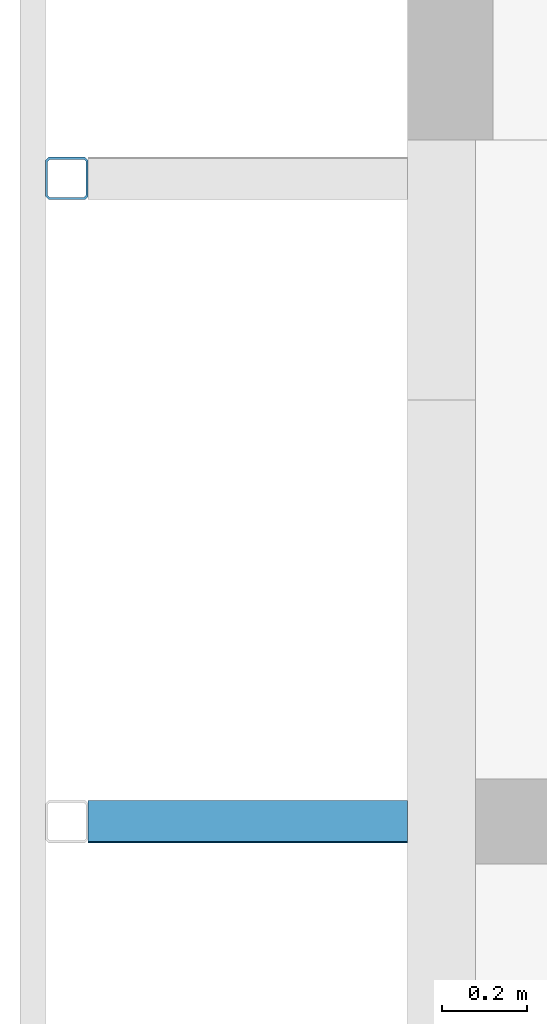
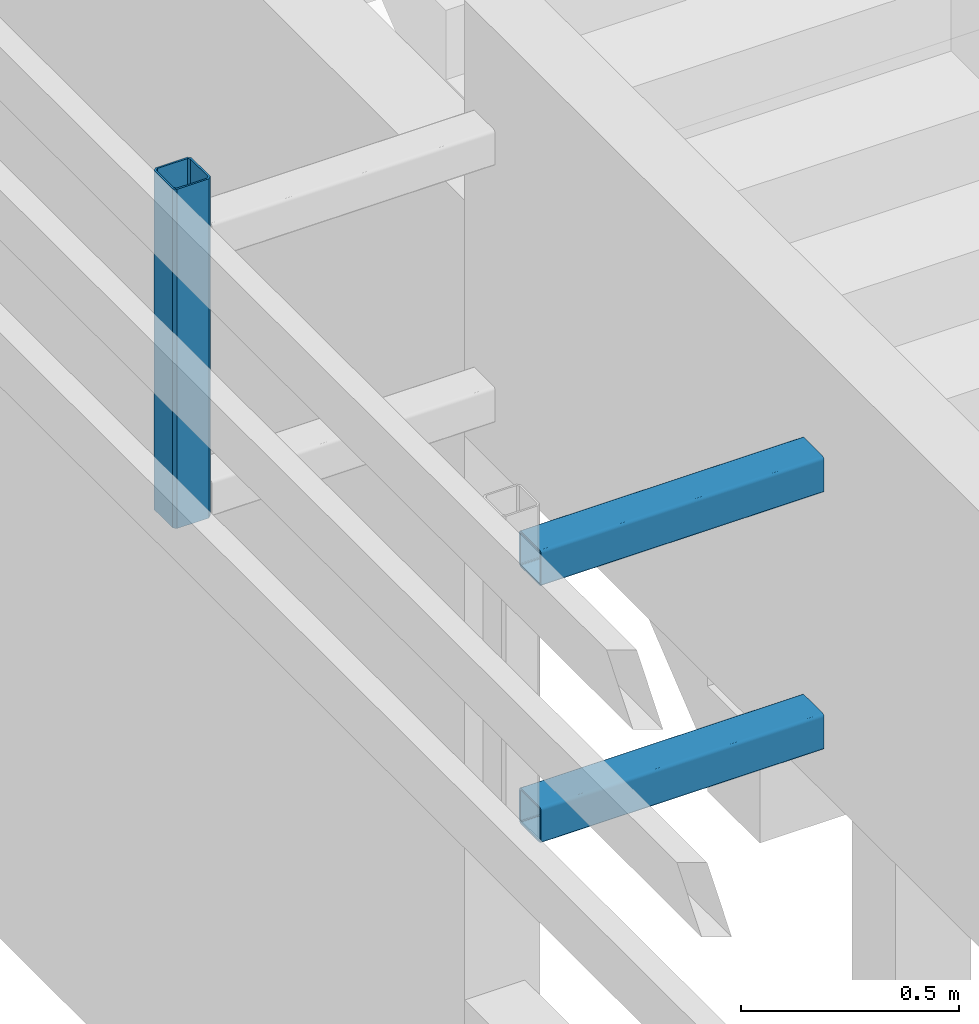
# One storey, part 9 of 44: 3 members.
"""IFC4 building model written with IfcOpenShell, lengths in metres."""

from ifc_helpers import new_model, entity, si_unit, converted_unit, derived_unit, frame, origin, place, context, subcontext, project, spatial, faceted_brep, material, element, save


model = new_model("IFC4")

# Units and contexts
model_context = context("Model", 3, precision=1e-05, world=origin())
plan_context = context("Plan", 2, precision=1e-05, world=origin())
body_context = subcontext(model_context, "Body", "Model", "MODEL_VIEW")
ifc_project = project(units=[si_unit("LENGTHUNIT", "METRE"), si_unit("AREAUNIT", "SQUARE_METRE"), si_unit("VOLUMEUNIT", "CUBIC_METRE"), si_unit("MASSUNIT", "GRAM", prefix="KILO"), converted_unit("PLANEANGLEUNIT", "DEGREE", entity("IfcPlaneAngleMeasure", 0.0174532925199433), si_unit("PLANEANGLEUNIT", "RADIAN"), dimensions=[0, 0, 0, 0, 0, 0, 0]), derived_unit("THERMALTRANSMITTANCEUNIT", [(si_unit("POWERUNIT", "WATT"), 1), (si_unit("THERMODYNAMICTEMPERATUREUNIT", "KELVIN"), -1), (si_unit("LENGTHUNIT", "METRE"), -2)]), derived_unit("VOLUMETRICFLOWRATEUNIT", [(si_unit("LENGTHUNIT", "METRE"), 3), (converted_unit("TIMEUNIT", "hour", entity("IfcTimeMeasure", 3600.0), si_unit("TIMEUNIT", "SECOND"), dimensions=[0, 0, 1, 0, 0, 0, 0]), -1), (si_unit("LENGTHUNIT", "METRE"), -1)])], contexts=[model_context, plan_context])

# Site, building, storey
site_placement = place(None, origin())
site = spatial("IfcSite", under=ifc_project, at=site_placement, Name="Site", CompositionType="ELEMENT")
building_placement = place(site_placement, origin())
building = spatial("IfcBuilding", under=site, at=building_placement, Name="Admin", CompositionType="ELEMENT")
storey_placement = place(building_placement, frame((0.0, 0.0, 3.25)))
storey = spatial("IfcBuildingStorey", under=building, at=storey_placement, Name="01-Etage1", CompositionType="ELEMENT", Elevation=3.25)

# Members
ifc_material_1 = material(Name="S235")
member_1_placement = place(storey_placement, frame((23.149800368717, 17.0594493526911, 2.82)))
element("IfcMember", 1, at=member_1_placement, inside=storey, material=ifc_material_1, Name="Bandeau R+1", context=body_context, shape_type="Brep", body=[
    faceted_brep([(0.0950000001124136, 0.0900000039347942, 0.0), (0.0950000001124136, 0.0900000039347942, 0.95), (0.095000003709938, 0.0100000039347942, 0.95), (0.095000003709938, 0.0100000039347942, 0.0), (0.0899999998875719, 0.0950000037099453, 0.0), (0.0899999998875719, 0.0950000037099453, 0.95), (0.0099999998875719, 0.0950000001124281, 0.0), (0.0099999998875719, 0.0950000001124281, 0.95), (0.00500000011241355, 0.0899999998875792, 0.0), (0.00500000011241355, 0.0899999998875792, 0.95), (0.00500000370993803, 0.00999999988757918, 0.0), (0.00500000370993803, 0.00999999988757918, 0.95), (0.0100000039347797, 0.0050000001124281, 0.0), (0.0100000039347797, 0.0050000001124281, 0.95), (0.0900000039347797, 0.0050000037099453, 0.0), (0.0900000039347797, 0.0050000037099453, 0.95), (0.0925000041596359, 3.82237340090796e-09, 0.0), (0.0925000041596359, 3.82237340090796e-09, 0.95), (0.100000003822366, 0.00750000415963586, 0.95), (0.100000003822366, 0.00750000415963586, 0.0), (0.00750000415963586, 0.0, 0.0), (0.00750000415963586, 0.0, 0.95), (3.82236612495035e-09, 0.00749999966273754, 0.0), (3.82236612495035e-09, 0.00749999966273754, 0.95), (0.0, 0.0924999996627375, 0.0), (0.0, 0.0924999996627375, 0.95), (0.00749999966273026, 0.1, 0.0), (0.00749999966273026, 0.1, 0.95), (0.0924999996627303, 0.100000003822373, 0.0), (0.0924999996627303, 0.100000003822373, 0.95), (0.1, 0.0925000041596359, 0.0), (0.1, 0.0925000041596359, 0.95)], [[[0, 1, 2, 3]], [[4, 5, 1, 0]], [[6, 7, 5, 4]], [[8, 9, 7, 6]], [[10, 11, 9, 8]], [[12, 13, 11, 10]], [[14, 15, 13, 12]], [[3, 2, 15, 14]], [[16, 17, 18, 19]], [[20, 21, 17, 16]], [[22, 23, 21, 20]], [[24, 25, 23, 22]], [[26, 27, 25, 24]], [[28, 29, 27, 26]], [[30, 31, 29, 28]], [[19, 18, 31, 30]], [[18, 17, 21, 23, 25, 27, 29, 31], [2, 1, 5, 7, 9, 11, 13, 15]], [[19, 30, 28, 26, 24, 22, 20, 16], [3, 14, 12, 10, 8, 6, 4, 0]]], orient=[[False], [False], [False], [False], [False], [False], [False], [False], [False], [False], [False], [False], [False], [False], [False], [False], [False, False], [False, False]]),
])
ifc_material_2 = material(Name="S235")
member_2_placement = place(storey_placement, frame((23.2498003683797, 15.5494493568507, 3.54)))
element("IfcMember", 2, at=member_2_placement, inside=storey, material=ifc_material_2, Name="Bandeau R+1", context=body_context, shape_type="Brep", body=[
    faceted_brep([(4.27206032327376e-09, 0.005, 0.09), (4.27206032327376e-09, 0.005, 0.01), (0.750000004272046, 0.00500003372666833, 0.01), (0.750000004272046, 0.00500003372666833, 0.09), (4.2686442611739e-09, 0.00507596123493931, 0.0908682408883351), (0.75000000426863, 0.00507599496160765, 0.0908682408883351), (4.25850157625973e-09, 0.00530153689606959, 0.0917101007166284), (0.750000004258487, 0.00530157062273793, 0.0917101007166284), (4.24193785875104e-09, 0.00566987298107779, 0.0925), (0.750000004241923, 0.00566990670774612, 0.0925), (4.21945878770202e-09, 0.0061697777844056, 0.0932139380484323), (0.750000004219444, 0.00616981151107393, 0.0932139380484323), (4.1917446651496e-09, 0.00678606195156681, 0.0938302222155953), (0.75000000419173, 0.00678609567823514, 0.0938302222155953), (4.15963950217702e-09, 0.0075, 0.0943301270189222), (0.750000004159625, 0.00750003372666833, 0.0943301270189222), (4.12411827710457e-09, 0.00828989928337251, 0.0946984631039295), (0.750000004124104, 0.00828993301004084, 0.0946984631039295), (4.08626146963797e-09, 0.00913175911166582, 0.0949240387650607), (0.750000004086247, 0.00913179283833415, 0.0949240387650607), (4.04721504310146e-09, 0.01, 0.095), (0.7500000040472, 0.0100000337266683, 0.095), (4.49705112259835e-10, 0.09, 0.095), (0.750000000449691, 0.0900000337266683, 0.095), (4.10662323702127e-10, 0.0908682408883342, 0.0949240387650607), (0.750000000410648, 0.0908682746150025, 0.0949240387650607), (3.7280551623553e-10, 0.0917101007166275, 0.0946984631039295), (0.750000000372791, 0.0917101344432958, 0.0946984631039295), (3.37284291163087e-10, 0.0925, 0.0943301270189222), (0.75000000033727, 0.0925000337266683, 0.0943301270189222), (3.05179128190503e-10, 0.0932139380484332, 0.0938302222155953), (0.750000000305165, 0.0932139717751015, 0.0938302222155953), (2.77465005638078e-10, 0.0938302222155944, 0.0932139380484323), (0.750000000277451, 0.0938302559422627, 0.0932139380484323), (2.54985934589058e-10, 0.0943301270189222, 0.0925), (0.750000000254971, 0.0943301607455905, 0.0925), (2.3842221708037e-10, 0.0946984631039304, 0.0917101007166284), (0.750000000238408, 0.0946984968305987, 0.0917101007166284), (2.28275894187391e-10, 0.0949240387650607, 0.0908682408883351), (0.750000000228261, 0.094924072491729, 0.0908682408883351), (2.24859832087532e-10, 0.095, 0.09), (0.750000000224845, 0.0950000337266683, 0.09), (2.24859832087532e-10, 0.095, 0.01), (0.750000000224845, 0.0950000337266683, 0.01), (2.28275894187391e-10, 0.0949240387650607, 0.00913175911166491), (0.750000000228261, 0.094924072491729, 0.00913175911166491), (2.3842221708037e-10, 0.0946984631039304, 0.0082898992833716), (0.750000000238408, 0.0946984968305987, 0.0082898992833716), (2.54985934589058e-10, 0.0943301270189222, 0.0075), (0.750000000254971, 0.0943301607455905, 0.0075), (2.77465005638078e-10, 0.0938302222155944, 0.00678606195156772), (0.750000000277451, 0.0938302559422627, 0.00678606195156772), (3.05179128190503e-10, 0.0932139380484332, 0.00616977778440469), (0.750000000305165, 0.0932139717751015, 0.00616977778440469), (3.37284291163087e-10, 0.0925, 0.00566987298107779), (0.75000000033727, 0.0925000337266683, 0.00566987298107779), (3.7280551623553e-10, 0.0917101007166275, 0.0053015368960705), (0.750000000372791, 0.0917101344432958, 0.0053015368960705), (4.10662323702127e-10, 0.0908682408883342, 0.00507596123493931), (0.750000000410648, 0.0908682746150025, 0.00507596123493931), (4.49705112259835e-10, 0.09, 0.005), (0.750000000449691, 0.0900000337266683, 0.005), (4.04721504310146e-09, 0.01, 0.005), (0.7500000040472, 0.0100000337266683, 0.005), (4.08626146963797e-09, 0.00913175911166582, 0.00507596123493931), (0.750000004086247, 0.00913179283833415, 0.00507596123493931), (4.12411827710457e-09, 0.00828989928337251, 0.0053015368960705), (0.750000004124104, 0.00828993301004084, 0.0053015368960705), (4.15963950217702e-09, 0.0075, 0.00566987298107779), (0.750000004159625, 0.00750003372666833, 0.00566987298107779), (4.1917446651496e-09, 0.00678606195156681, 0.00616977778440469), (0.75000000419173, 0.00678609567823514, 0.00616977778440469), (4.21945878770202e-09, 0.0061697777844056, 0.00678606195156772), (0.750000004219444, 0.00616981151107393, 0.00678606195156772), (4.24193785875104e-09, 0.00566987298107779, 0.0075), (0.750000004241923, 0.00566990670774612, 0.0075), (4.25850157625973e-09, 0.00530153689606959, 0.0082898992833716), (0.750000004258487, 0.00530157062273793, 0.0082898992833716), (4.2686442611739e-09, 0.00507596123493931, 0.00913175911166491), (0.75000000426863, 0.00507599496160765, 0.00913175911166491), (3.37284291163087e-10, 0.0925, 0.1), (2.78716470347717e-10, 0.0938023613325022, 0.0998860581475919), (0.750000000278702, 0.0938023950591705, 0.0998860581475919), (0.75000000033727, 0.0925000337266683, 0.1), (4.15963950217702e-09, 0.0075, 0.1), (0.750000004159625, 0.00750003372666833, 0.1), (4.21820368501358e-09, 0.00619763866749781, 0.0998860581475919), (0.750000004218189, 0.00619767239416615, 0.0998860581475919), (4.27499253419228e-09, 0.00493484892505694, 0.0995476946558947), (0.750000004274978, 0.00493488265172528, 0.0995476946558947), (4.32827073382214e-09, 0.00375, 0.0989951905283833), (0.750000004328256, 0.00375003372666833, 0.0989951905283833), (4.37643029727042e-09, 0.00267909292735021, 0.0982453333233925), (0.750000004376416, 0.00267912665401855, 0.0982453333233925), (4.41800148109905e-09, 0.00175466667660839, 0.0973209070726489), (0.750000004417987, 0.00175470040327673, 0.0973209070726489), (4.45172190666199e-09, 0.00100480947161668, 0.09625), (0.750000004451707, 0.00100484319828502, 0.09625), (4.47656566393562e-09, 0.000452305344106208, 0.0950651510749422), (0.750000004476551, 0.000452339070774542, 0.0950651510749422), (4.49178332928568e-09, 0.000113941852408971, 0.0938023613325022), (0.750000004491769, 0.000113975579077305, 0.0938023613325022), (4.49690560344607e-09, 0.0, 0.0925), (0.750000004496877, 3.37266683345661e-08, 0.0925), (4.49178332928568e-09, 0.000113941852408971, 0.00619763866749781), (4.49690560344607e-09, 0.0, 0.0075), (0.750000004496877, 3.37266683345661e-08, 0.0075), (0.750000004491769, 0.000113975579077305, 0.00619763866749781), (4.47656566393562e-09, 0.000452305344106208, 0.00493484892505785), (0.750000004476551, 0.000452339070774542, 0.00493484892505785), (4.45172190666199e-09, 0.00100480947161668, 0.00375), (0.750000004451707, 0.00100484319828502, 0.00375), (4.41800148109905e-09, 0.00175466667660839, 0.00267909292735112), (0.750000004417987, 0.00175470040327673, 0.00267909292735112), (4.37643029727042e-09, 0.00267909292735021, 0.00175466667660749), (0.750000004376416, 0.00267912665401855, 0.00175466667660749), (4.32827073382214e-09, 0.00375, 0.00100480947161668), (0.750000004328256, 0.00375003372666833, 0.00100480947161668), (4.27499253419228e-09, 0.00493484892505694, 0.000452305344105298), (0.750000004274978, 0.00493488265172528, 0.000452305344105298), (4.21820368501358e-09, 0.00619763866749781, 0.000113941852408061), (0.750000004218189, 0.00619767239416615, 0.000113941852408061), (4.15963950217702e-09, 0.0075, 0.0), (0.750000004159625, 0.00750003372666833, 0.0), (3.37284291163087e-10, 0.0925, 0.0), (0.75000000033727, 0.0925000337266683, 0.0), (2.78716470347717e-10, 0.0938023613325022, 0.000113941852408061), (0.750000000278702, 0.0938023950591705, 0.000113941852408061), (2.21931259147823e-10, 0.0950651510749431, 0.000452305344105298), (0.750000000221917, 0.0950651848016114, 0.000452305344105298), (1.68649421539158e-10, 0.09625, 0.00100480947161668), (0.750000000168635, 0.0962500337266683, 0.00100480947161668), (1.20493496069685e-10, 0.0973209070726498, 0.00175466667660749), (0.750000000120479, 0.0973209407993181, 0.00175466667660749), (7.89223122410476e-11, 0.0982453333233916, 0.00267909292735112), (0.750000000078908, 0.0982453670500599, 0.00267909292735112), (4.52018866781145e-11, 0.0989951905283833, 0.00375), (0.750000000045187, 0.0989952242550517, 0.00375), (2.03544914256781e-11, 0.0995476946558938, 0.00493484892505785), (0.75000000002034, 0.0995477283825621, 0.00493484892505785), (5.14046405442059e-12, 0.099886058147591, 0.00619763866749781), (0.750000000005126, 0.0998860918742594, 0.00619763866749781), (0.0, 0.1, 0.0075), (0.749999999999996, 0.100000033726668, 0.0075), (5.14046405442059e-12, 0.099886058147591, 0.0938023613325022), (-3.63797880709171e-15, 0.0999999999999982, 0.0925), (0.75, 0.100000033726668, 0.0925), (0.750000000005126, 0.0998860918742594, 0.0938023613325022), (2.03544914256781e-11, 0.0995476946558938, 0.0950651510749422), (0.75000000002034, 0.0995477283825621, 0.0950651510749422), (4.52018866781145e-11, 0.0989951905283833, 0.09625), (0.750000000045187, 0.0989952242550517, 0.09625), (7.89223122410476e-11, 0.0982453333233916, 0.0973209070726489), (0.750000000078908, 0.0982453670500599, 0.0973209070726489), (1.20493496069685e-10, 0.0973209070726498, 0.0982453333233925), (0.750000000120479, 0.0973209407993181, 0.0982453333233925), (1.68649421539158e-10, 0.09625, 0.0989951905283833), (0.750000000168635, 0.0962500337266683, 0.0989951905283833), (2.21931259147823e-10, 0.0950651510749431, 0.0995476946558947), (0.750000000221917, 0.0950651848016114, 0.0995476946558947)], [[[0, 1, 2, 3]], [[4, 0, 3, 5]], [[6, 4, 5, 7]], [[8, 6, 7, 9]], [[10, 8, 9, 11]], [[12, 10, 11, 13]], [[14, 12, 13, 15]], [[16, 14, 15, 17]], [[18, 16, 17, 19]], [[20, 18, 19, 21]], [[22, 20, 21, 23]], [[24, 22, 23, 25]], [[26, 24, 25, 27]], [[28, 26, 27, 29]], [[30, 28, 29, 31]], [[32, 30, 31, 33]], [[34, 32, 33, 35]], [[36, 34, 35, 37]], [[38, 36, 37, 39]], [[40, 38, 39, 41]], [[42, 40, 41, 43]], [[44, 42, 43, 45]], [[46, 44, 45, 47]], [[48, 46, 47, 49]], [[50, 48, 49, 51]], [[52, 50, 51, 53]], [[54, 52, 53, 55]], [[56, 54, 55, 57]], [[58, 56, 57, 59]], [[60, 58, 59, 61]], [[62, 60, 61, 63]], [[64, 62, 63, 65]], [[66, 64, 65, 67]], [[68, 66, 67, 69]], [[70, 68, 69, 71]], [[72, 70, 71, 73]], [[74, 72, 73, 75]], [[76, 74, 75, 77]], [[78, 76, 77, 79]], [[1, 78, 79, 2]], [[80, 81, 82, 83]], [[84, 80, 83, 85]], [[86, 84, 85, 87]], [[88, 86, 87, 89]], [[90, 88, 89, 91]], [[92, 90, 91, 93]], [[94, 92, 93, 95]], [[96, 94, 95, 97]], [[98, 96, 97, 99]], [[100, 98, 99, 101]], [[102, 100, 101, 103]], [[104, 105, 106, 107]], [[108, 104, 107, 109]], [[110, 108, 109, 111]], [[112, 110, 111, 113]], [[114, 112, 113, 115]], [[116, 114, 115, 117]], [[118, 116, 117, 119]], [[120, 118, 119, 121]], [[122, 120, 121, 123]], [[124, 122, 123, 125]], [[126, 124, 125, 127]], [[128, 126, 127, 129]], [[130, 128, 129, 131]], [[132, 130, 131, 133]], [[134, 132, 133, 135]], [[136, 134, 135, 137]], [[138, 136, 137, 139]], [[140, 138, 139, 141]], [[142, 140, 141, 143]], [[144, 145, 146, 147]], [[148, 144, 147, 149]], [[150, 148, 149, 151]], [[152, 150, 151, 153]], [[154, 152, 153, 155]], [[156, 154, 155, 157]], [[158, 156, 157, 159]], [[81, 158, 159, 82]], [[146, 143, 141, 139, 137, 135, 133, 131, 129, 127, 125, 123, 121, 119, 117, 115, 113, 111, 109, 107, 106, 103, 101, 99, 97, 95, 93, 91, 89, 87, 85, 83, 82, 159, 157, 155, 153, 151, 149, 147], [2, 79, 77, 75, 73, 71, 69, 67, 65, 63, 61, 59, 57, 55, 53, 51, 49, 47, 45, 43, 41, 39, 37, 35, 33, 31, 29, 27, 25, 23, 21, 19, 17, 15, 13, 11, 9, 7, 5, 3]], [[103, 106, 105, 102]], [[102, 105, 104, 108, 110, 112, 114, 116, 118, 120, 122, 124, 126, 128, 130, 132, 134, 136, 138, 140, 142, 145, 144, 148, 150, 152, 154, 156, 158, 81, 80, 84, 86, 88, 90, 92, 94, 96, 98, 100], [1, 0, 4, 6, 8, 10, 12, 14, 16, 18, 20, 22, 24, 26, 28, 30, 32, 34, 36, 38, 40, 42, 44, 46, 48, 50, 52, 54, 56, 58, 60, 62, 64, 66, 68, 70, 72, 74, 76, 78]], [[145, 142, 143, 146]]], orient=[[False], [False], [False], [False], [False], [False], [False], [False], [False], [False], [False], [False], [False], [False], [False], [False], [False], [False], [False], [False], [False], [False], [False], [False], [False], [False], [False], [False], [False], [False], [False], [False], [False], [False], [False], [False], [False], [False], [False], [False], [False], [False], [False], [False], [False], [False], [False], [False], [False], [False], [False], [False], [False], [False], [False], [False], [False], [False], [False], [False], [False], [False], [False], [False], [False], [False], [False], [False], [False], [False], [False], [False], [False], [False], [False], [False], [False], [False], [False, False], [False], [False, False], [False]]),
])
ifc_material_3 = material(Name="S235")
member_3_placement = place(storey_placement, frame((23.2498003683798, 15.5494493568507, 2.82)))
element("IfcMember", 3, at=member_3_placement, inside=storey, material=ifc_material_3, Name="Bandeau R+1", context=body_context, shape_type="Brep", body=[
    faceted_brep([(4.27206032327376e-09, 0.005, 0.09), (4.27206032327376e-09, 0.005, 0.01), (0.750000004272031, 0.00500003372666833, 0.01), (0.750000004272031, 0.00500003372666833, 0.09), (4.2686442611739e-09, 0.00507596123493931, 0.0908682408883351), (0.750000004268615, 0.00507599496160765, 0.0908682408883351), (4.25850157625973e-09, 0.00530153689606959, 0.0917101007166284), (0.750000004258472, 0.00530157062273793, 0.0917101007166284), (4.24193785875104e-09, 0.00566987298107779, 0.0925), (0.750000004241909, 0.00566990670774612, 0.0925), (4.21945878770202e-09, 0.0061697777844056, 0.0932139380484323), (0.75000000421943, 0.00616981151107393, 0.0932139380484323), (4.1917446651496e-09, 0.00678606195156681, 0.0938302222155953), (0.750000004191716, 0.00678609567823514, 0.0938302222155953), (4.15963950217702e-09, 0.0075, 0.0943301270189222), (0.75000000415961, 0.00750003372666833, 0.0943301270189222), (4.12411827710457e-09, 0.00828989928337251, 0.0946984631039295), (0.750000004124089, 0.00828993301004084, 0.0946984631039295), (4.08626146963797e-09, 0.00913175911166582, 0.0949240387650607), (0.750000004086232, 0.00913179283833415, 0.0949240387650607), (4.04721504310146e-09, 0.01, 0.095), (0.750000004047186, 0.0100000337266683, 0.095), (4.49705112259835e-10, 0.09, 0.095), (0.750000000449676, 0.0900000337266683, 0.095), (4.10662323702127e-10, 0.0908682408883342, 0.0949240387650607), (0.750000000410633, 0.0908682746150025, 0.0949240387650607), (3.7280551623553e-10, 0.0917101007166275, 0.0946984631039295), (0.750000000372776, 0.0917101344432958, 0.0946984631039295), (3.37284291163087e-10, 0.0925, 0.0943301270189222), (0.750000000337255, 0.0925000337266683, 0.0943301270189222), (3.05179128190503e-10, 0.0932139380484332, 0.0938302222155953), (0.75000000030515, 0.0932139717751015, 0.0938302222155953), (2.77465005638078e-10, 0.0938302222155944, 0.0932139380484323), (0.750000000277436, 0.0938302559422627, 0.0932139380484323), (2.54985934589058e-10, 0.0943301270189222, 0.0925), (0.750000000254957, 0.0943301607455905, 0.0925), (2.3842221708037e-10, 0.0946984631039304, 0.0917101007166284), (0.750000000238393, 0.0946984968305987, 0.0917101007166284), (2.28275894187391e-10, 0.0949240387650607, 0.0908682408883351), (0.750000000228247, 0.094924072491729, 0.0908682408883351), (2.24859832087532e-10, 0.095, 0.09), (0.750000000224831, 0.0950000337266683, 0.09), (2.24859832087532e-10, 0.095, 0.01), (0.750000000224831, 0.0950000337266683, 0.01), (2.28275894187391e-10, 0.0949240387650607, 0.00913175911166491), (0.750000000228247, 0.094924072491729, 0.00913175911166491), (2.3842221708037e-10, 0.0946984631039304, 0.0082898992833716), (0.750000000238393, 0.0946984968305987, 0.0082898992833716), (2.54985934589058e-10, 0.0943301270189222, 0.0075), (0.750000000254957, 0.0943301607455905, 0.0075), (2.77465005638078e-10, 0.0938302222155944, 0.00678606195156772), (0.750000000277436, 0.0938302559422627, 0.00678606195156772), (3.05179128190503e-10, 0.0932139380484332, 0.00616977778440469), (0.75000000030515, 0.0932139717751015, 0.00616977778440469), (3.37284291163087e-10, 0.0925, 0.00566987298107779), (0.750000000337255, 0.0925000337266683, 0.00566987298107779), (3.7280551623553e-10, 0.0917101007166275, 0.0053015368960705), (0.750000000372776, 0.0917101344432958, 0.0053015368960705), (4.10662323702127e-10, 0.0908682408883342, 0.00507596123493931), (0.750000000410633, 0.0908682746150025, 0.00507596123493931), (4.49705112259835e-10, 0.09, 0.005), (0.750000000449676, 0.0900000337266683, 0.005), (4.04721504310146e-09, 0.01, 0.005), (0.750000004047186, 0.0100000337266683, 0.005), (4.08626146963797e-09, 0.00913175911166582, 0.00507596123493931), (0.750000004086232, 0.00913179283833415, 0.00507596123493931), (4.12411827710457e-09, 0.00828989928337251, 0.0053015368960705), (0.750000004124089, 0.00828993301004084, 0.0053015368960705), (4.15963950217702e-09, 0.0075, 0.00566987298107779), (0.75000000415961, 0.00750003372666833, 0.00566987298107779), (4.1917446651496e-09, 0.00678606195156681, 0.00616977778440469), (0.750000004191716, 0.00678609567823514, 0.00616977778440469), (4.21945878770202e-09, 0.0061697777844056, 0.00678606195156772), (0.75000000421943, 0.00616981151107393, 0.00678606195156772), (4.24193785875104e-09, 0.00566987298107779, 0.0075), (0.750000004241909, 0.00566990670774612, 0.0075), (4.25850157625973e-09, 0.00530153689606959, 0.0082898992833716), (0.750000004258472, 0.00530157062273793, 0.0082898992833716), (4.2686442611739e-09, 0.00507596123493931, 0.00913175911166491), (0.750000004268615, 0.00507599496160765, 0.00913175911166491), (3.37284291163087e-10, 0.0925, 0.1), (2.78716470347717e-10, 0.0938023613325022, 0.0998860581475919), (0.750000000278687, 0.0938023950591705, 0.0998860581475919), (0.750000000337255, 0.0925000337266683, 0.1), (4.15963950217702e-09, 0.0075, 0.1), (0.75000000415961, 0.00750003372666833, 0.1), (4.21820368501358e-09, 0.00619763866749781, 0.0998860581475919), (0.750000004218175, 0.00619767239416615, 0.0998860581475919), (4.27499253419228e-09, 0.00493484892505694, 0.0995476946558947), (0.750000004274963, 0.00493488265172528, 0.0995476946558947), (4.32827073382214e-09, 0.00375, 0.0989951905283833), (0.750000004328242, 0.00375003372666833, 0.0989951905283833), (4.37643029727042e-09, 0.00267909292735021, 0.0982453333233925), (0.750000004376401, 0.00267912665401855, 0.0982453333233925), (4.41800148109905e-09, 0.00175466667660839, 0.0973209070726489), (0.750000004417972, 0.00175470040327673, 0.0973209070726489), (4.45172190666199e-09, 0.00100480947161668, 0.09625), (0.750000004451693, 0.00100484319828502, 0.09625), (4.47656566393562e-09, 0.000452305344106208, 0.0950651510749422), (0.750000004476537, 0.000452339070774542, 0.0950651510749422), (4.49178332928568e-09, 0.000113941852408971, 0.0938023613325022), (0.750000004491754, 0.000113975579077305, 0.0938023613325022), (4.49690560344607e-09, 0.0, 0.0925), (0.750000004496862, 3.37266683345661e-08, 0.0925), (4.49178332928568e-09, 0.000113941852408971, 0.00619763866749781), (4.49690560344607e-09, 0.0, 0.0075), (0.750000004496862, 3.37266683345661e-08, 0.0075), (0.750000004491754, 0.000113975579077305, 0.00619763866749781), (4.47656566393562e-09, 0.000452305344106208, 0.00493484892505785), (0.750000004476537, 0.000452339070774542, 0.00493484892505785), (4.45172190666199e-09, 0.00100480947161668, 0.00375), (0.750000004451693, 0.00100484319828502, 0.00375), (4.41800148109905e-09, 0.00175466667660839, 0.00267909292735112), (0.750000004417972, 0.00175470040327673, 0.00267909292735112), (4.37643029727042e-09, 0.00267909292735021, 0.00175466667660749), (0.750000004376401, 0.00267912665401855, 0.00175466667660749), (4.32827073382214e-09, 0.00375, 0.00100480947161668), (0.750000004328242, 0.00375003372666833, 0.00100480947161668), (4.27499253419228e-09, 0.00493484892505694, 0.000452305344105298), (0.750000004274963, 0.00493488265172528, 0.000452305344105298), (4.21820368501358e-09, 0.00619763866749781, 0.000113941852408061), (0.750000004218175, 0.00619767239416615, 0.000113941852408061), (4.15963950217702e-09, 0.0075, 0.0), (0.75000000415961, 0.00750003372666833, 0.0), (3.37284291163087e-10, 0.0925, 0.0), (0.750000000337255, 0.0925000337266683, 0.0), (2.78716470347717e-10, 0.0938023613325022, 0.000113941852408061), (0.750000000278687, 0.0938023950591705, 0.000113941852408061), (2.21931259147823e-10, 0.0950651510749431, 0.000452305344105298), (0.750000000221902, 0.0950651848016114, 0.000452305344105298), (1.68649421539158e-10, 0.09625, 0.00100480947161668), (0.75000000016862, 0.0962500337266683, 0.00100480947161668), (1.20493496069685e-10, 0.0973209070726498, 0.00175466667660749), (0.750000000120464, 0.0973209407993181, 0.00175466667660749), (7.89223122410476e-11, 0.0982453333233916, 0.00267909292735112), (0.750000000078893, 0.0982453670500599, 0.00267909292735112), (4.52018866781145e-11, 0.0989951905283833, 0.00375), (0.750000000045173, 0.0989952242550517, 0.00375), (2.03544914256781e-11, 0.0995476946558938, 0.00493484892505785), (0.750000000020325, 0.0995477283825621, 0.00493484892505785), (5.14046405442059e-12, 0.099886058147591, 0.00619763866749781), (0.750000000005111, 0.0998860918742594, 0.00619763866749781), (0.0, 0.1, 0.0075), (0.749999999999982, 0.100000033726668, 0.0075), (5.14046405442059e-12, 0.099886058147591, 0.0938023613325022), (0.0, 0.0999999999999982, 0.0925), (0.749999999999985, 0.100000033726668, 0.0925), (0.750000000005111, 0.0998860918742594, 0.0938023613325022), (2.03544914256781e-11, 0.0995476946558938, 0.0950651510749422), (0.750000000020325, 0.0995477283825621, 0.0950651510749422), (4.52018866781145e-11, 0.0989951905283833, 0.09625), (0.750000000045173, 0.0989952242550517, 0.09625), (7.89223122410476e-11, 0.0982453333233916, 0.0973209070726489), (0.750000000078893, 0.0982453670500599, 0.0973209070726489), (1.20493496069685e-10, 0.0973209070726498, 0.0982453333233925), (0.750000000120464, 0.0973209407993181, 0.0982453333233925), (1.68649421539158e-10, 0.09625, 0.0989951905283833), (0.75000000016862, 0.0962500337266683, 0.0989951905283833), (2.21931259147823e-10, 0.0950651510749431, 0.0995476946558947), (0.750000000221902, 0.0950651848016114, 0.0995476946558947)], [[[0, 1, 2, 3]], [[4, 0, 3, 5]], [[6, 4, 5, 7]], [[8, 6, 7, 9]], [[10, 8, 9, 11]], [[12, 10, 11, 13]], [[14, 12, 13, 15]], [[16, 14, 15, 17]], [[18, 16, 17, 19]], [[20, 18, 19, 21]], [[22, 20, 21, 23]], [[24, 22, 23, 25]], [[26, 24, 25, 27]], [[28, 26, 27, 29]], [[30, 28, 29, 31]], [[32, 30, 31, 33]], [[34, 32, 33, 35]], [[36, 34, 35, 37]], [[38, 36, 37, 39]], [[40, 38, 39, 41]], [[42, 40, 41, 43]], [[44, 42, 43, 45]], [[46, 44, 45, 47]], [[48, 46, 47, 49]], [[50, 48, 49, 51]], [[52, 50, 51, 53]], [[54, 52, 53, 55]], [[56, 54, 55, 57]], [[58, 56, 57, 59]], [[60, 58, 59, 61]], [[62, 60, 61, 63]], [[64, 62, 63, 65]], [[66, 64, 65, 67]], [[68, 66, 67, 69]], [[70, 68, 69, 71]], [[72, 70, 71, 73]], [[74, 72, 73, 75]], [[76, 74, 75, 77]], [[78, 76, 77, 79]], [[1, 78, 79, 2]], [[80, 81, 82, 83]], [[84, 80, 83, 85]], [[86, 84, 85, 87]], [[88, 86, 87, 89]], [[90, 88, 89, 91]], [[92, 90, 91, 93]], [[94, 92, 93, 95]], [[96, 94, 95, 97]], [[98, 96, 97, 99]], [[100, 98, 99, 101]], [[102, 100, 101, 103]], [[104, 105, 106, 107]], [[108, 104, 107, 109]], [[110, 108, 109, 111]], [[112, 110, 111, 113]], [[114, 112, 113, 115]], [[116, 114, 115, 117]], [[118, 116, 117, 119]], [[120, 118, 119, 121]], [[122, 120, 121, 123]], [[124, 122, 123, 125]], [[126, 124, 125, 127]], [[128, 126, 127, 129]], [[130, 128, 129, 131]], [[132, 130, 131, 133]], [[134, 132, 133, 135]], [[136, 134, 135, 137]], [[138, 136, 137, 139]], [[140, 138, 139, 141]], [[142, 140, 141, 143]], [[144, 145, 146, 147]], [[148, 144, 147, 149]], [[150, 148, 149, 151]], [[152, 150, 151, 153]], [[154, 152, 153, 155]], [[156, 154, 155, 157]], [[158, 156, 157, 159]], [[81, 158, 159, 82]], [[146, 143, 141, 139, 137, 135, 133, 131, 129, 127, 125, 123, 121, 119, 117, 115, 113, 111, 109, 107, 106, 103, 101, 99, 97, 95, 93, 91, 89, 87, 85, 83, 82, 159, 157, 155, 153, 151, 149, 147], [2, 79, 77, 75, 73, 71, 69, 67, 65, 63, 61, 59, 57, 55, 53, 51, 49, 47, 45, 43, 41, 39, 37, 35, 33, 31, 29, 27, 25, 23, 21, 19, 17, 15, 13, 11, 9, 7, 5, 3]], [[103, 106, 105, 102]], [[102, 105, 104, 108, 110, 112, 114, 116, 118, 120, 122, 124, 126, 128, 130, 132, 134, 136, 138, 140, 142, 145, 144, 148, 150, 152, 154, 156, 158, 81, 80, 84, 86, 88, 90, 92, 94, 96, 98, 100], [1, 0, 4, 6, 8, 10, 12, 14, 16, 18, 20, 22, 24, 26, 28, 30, 32, 34, 36, 38, 40, 42, 44, 46, 48, 50, 52, 54, 56, 58, 60, 62, 64, 66, 68, 70, 72, 74, 76, 78]], [[145, 142, 143, 146]]], orient=[[False], [False], [False], [False], [False], [False], [False], [False], [False], [False], [False], [False], [False], [False], [False], [False], [False], [False], [False], [False], [False], [False], [False], [False], [False], [False], [False], [False], [False], [False], [False], [False], [False], [False], [False], [False], [False], [False], [False], [False], [False], [False], [False], [False], [False], [False], [False], [False], [False], [False], [False], [False], [False], [False], [False], [False], [False], [False], [False], [False], [False], [False], [False], [False], [False], [False], [False], [False], [False], [False], [False], [False], [False], [False], [False], [False], [False], [False], [False, False], [False], [False, False], [False]]),
])

save(model, "model.ifc")
